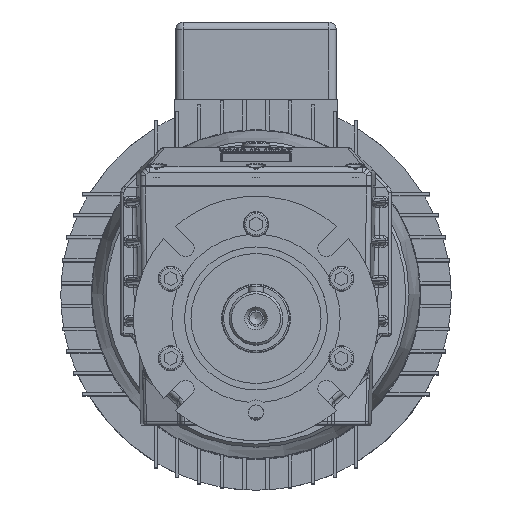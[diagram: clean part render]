
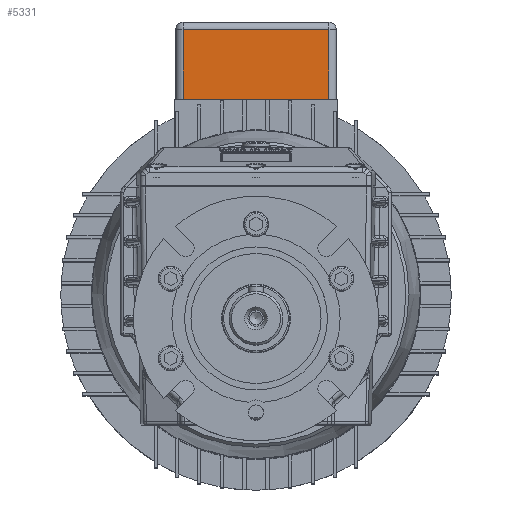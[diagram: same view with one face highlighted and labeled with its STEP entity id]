
A CAD part, top view. The second image highlights one B-rep face of the part: STEP entity #5331.
In plain terms, the highlighted planar face has unit normal (0, 0, 1).
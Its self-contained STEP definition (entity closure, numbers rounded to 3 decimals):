
#5331 = ADVANCED_FACE( '', ( #11153 ), #11154, .T. );
#11153 = FACE_OUTER_BOUND( '', #24139, .T. );
#11154 = PLANE( '', #24140 );
#24139 = EDGE_LOOP( '', ( #39940, #39941, #39942, #39943 ) );
#24140 = AXIS2_PLACEMENT_3D( '', #39944, #39945, #39946 );
#39940 = ORIENTED_EDGE( '', *, *, #47063, .T. );
#39941 = ORIENTED_EDGE( '', *, *, #45726, .T. );
#39942 = ORIENTED_EDGE( '', *, *, #47770, .T. );
#39943 = ORIENTED_EDGE( '', *, *, #46002, .T. );
#39944 = CARTESIAN_POINT( '', ( 52.5, 194.35, -308.9 ) );
#39945 = DIRECTION( '', ( 0., 0., 1. ) );
#39946 = DIRECTION( '', ( 1., 0., 0. ) );
#45726 = EDGE_CURVE( '', #50709, #54495, #54497, .T. );
#46002 = EDGE_CURVE( '', #54872, #54560, #54873, .F. );
#47063 = EDGE_CURVE( '', #54560, #50709, #56247, .T. );
#47770 = EDGE_CURVE( '', #54495, #54872, #57079, .T. );
#50709 = VERTEX_POINT( '', #62279 );
#54495 = VERTEX_POINT( '', #70627 );
#54497 = LINE( '', #70629, #70630 );
#54560 = VERTEX_POINT( '', #70814 );
#54872 = VERTEX_POINT( '', #71471 );
#54873 = LINE( '', #71472, #71473 );
#56247 = LINE( '', #74197, #74198 );
#57079 = LINE( '', #75903, #75904 );
#62279 = CARTESIAN_POINT( '', ( -47.5, 189.35, -308.9 ) );
#70627 = CARTESIAN_POINT( '', ( -47.5, 143.85, -308.9 ) );
#70629 = CARTESIAN_POINT( '', ( -47.5, 194.35, -308.9 ) );
#70630 = VECTOR( '', #80961, 1000. );
#70814 = CARTESIAN_POINT( '', ( 47.5, 189.35, -308.9 ) );
#71471 = CARTESIAN_POINT( '', ( 47.5, 143.85, -308.9 ) );
#71472 = CARTESIAN_POINT( '', ( 47.5, 194.35, -308.9 ) );
#71473 = VECTOR( '', #81202, 1000. );
#74197 = CARTESIAN_POINT( '', ( 52.5, 189.35, -308.9 ) );
#74198 = VECTOR( '', #82171, 1000. );
#75903 = CARTESIAN_POINT( '', ( -53.5, 143.85, -308.9 ) );
#75904 = VECTOR( '', #82774, 1000. );
#80961 = DIRECTION( '', ( 0., -1., 0. ) );
#81202 = DIRECTION( '', ( 0., -1., 0. ) );
#82171 = DIRECTION( '', ( -1., 0., 0. ) );
#82774 = DIRECTION( '', ( 1., 0., 0. ) );
